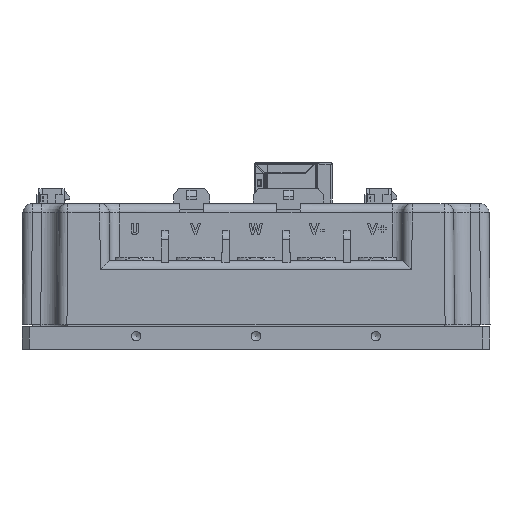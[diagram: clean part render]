
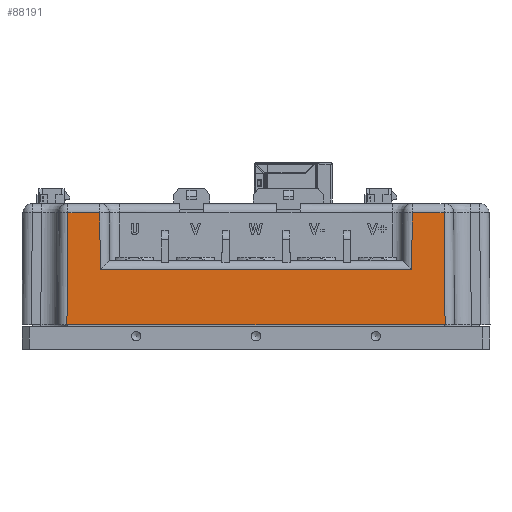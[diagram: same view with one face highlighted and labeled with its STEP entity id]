
A CAD part, left-side view. The second image highlights one B-rep face of the part: STEP entity #88191.
In plain terms, the highlighted planar face has unit normal (-1, 0, 0.009).
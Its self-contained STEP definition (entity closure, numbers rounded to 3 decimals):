
#8923=FACE_OUTER_BOUND('',#13813,.T.);
#13813=EDGE_LOOP('',(#76361,#76362,#76363,#76364,#76365,#76366,#76367,#76368));
#23563=LINE('',#148475,#33564);
#23595=LINE('',#148648,#33596);
#23709=LINE('',#149009,#33710);
#23710=LINE('',#149010,#33711);
#23711=LINE('',#149012,#33712);
#23712=LINE('',#149014,#33713);
#23713=LINE('',#149015,#33714);
#23714=LINE('',#149016,#33715);
#33564=VECTOR('',#114016,83.191);
#33596=VECTOR('',#114134,101.);
#33710=VECTOR('',#114414,8.511);
#33711=VECTOR('',#114415,29.924);
#33712=VECTOR('',#114416,29.924);
#33713=VECTOR('',#114417,8.511);
#33714=VECTOR('',#114418,15.201);
#33715=VECTOR('',#114419,15.201);
#42365=VERTEX_POINT('',#148472);
#42366=VERTEX_POINT('',#148474);
#42421=VERTEX_POINT('',#148646);
#42422=VERTEX_POINT('',#148647);
#42585=VERTEX_POINT('',#149007);
#42586=VERTEX_POINT('',#149008);
#42587=VERTEX_POINT('',#149011);
#42588=VERTEX_POINT('',#149013);
#53982=EDGE_CURVE('',#42366,#42365,#23563,.F.);
#54052=EDGE_CURVE('',#42421,#42422,#23595,.T.);
#54246=EDGE_CURVE('',#42585,#42586,#23709,.F.);
#54247=EDGE_CURVE('',#42586,#42421,#23710,.T.);
#54248=EDGE_CURVE('',#42422,#42587,#23711,.F.);
#54249=EDGE_CURVE('',#42587,#42588,#23712,.F.);
#54250=EDGE_CURVE('',#42588,#42366,#23713,.T.);
#54251=EDGE_CURVE('',#42365,#42585,#23714,.F.);
#76361=ORIENTED_EDGE('',*,*,#54246,.T.);
#76362=ORIENTED_EDGE('',*,*,#54247,.T.);
#76363=ORIENTED_EDGE('',*,*,#54052,.T.);
#76364=ORIENTED_EDGE('',*,*,#54248,.T.);
#76365=ORIENTED_EDGE('',*,*,#54249,.T.);
#76366=ORIENTED_EDGE('',*,*,#54250,.T.);
#76367=ORIENTED_EDGE('',*,*,#53982,.T.);
#76368=ORIENTED_EDGE('',*,*,#54251,.T.);
#84156=PLANE('',#94283);
#88191=ADVANCED_FACE('',(#8923),#84156,.T.);
#94283=AXIS2_PLACEMENT_3D('',#149006,#114412,#114413);
#114016=DIRECTION('',(0.,-1.,0.));
#114134=DIRECTION('',(0.,-1.,0.));
#114412=DIRECTION('center_axis',(-1.,0.,
0.009));
#114413=DIRECTION('ref_axis',(0.,-1.,0.));
#114414=DIRECTION('',(0.,-1.,0.));
#114415=DIRECTION('',(-0.009,0.009,-1.));
#114416=DIRECTION('',(-0.009,-0.009,-1.));
#114417=DIRECTION('',(0.,-1.,0.));
#114418=DIRECTION('',(-0.009,0.009,-1.));
#114419=DIRECTION('',(-0.009,-0.009,-1.));
#148472=CARTESIAN_POINT('',(-33.413,41.228,22.048));
#148474=CARTESIAN_POINT('',(-33.413,-41.963,22.048));
#148475=CARTESIAN_POINT('',(-33.413,41.228,22.048));
#148646=CARTESIAN_POINT('',(-33.542,50.132,7.326));
#148647=CARTESIAN_POINT('',(-33.542,-50.868,7.326));
#148648=CARTESIAN_POINT('',(-33.542,50.132,7.326));
#149006=CARTESIAN_POINT('Origin',(-33.542,-62.868,7.326));
#149007=CARTESIAN_POINT('',(-33.281,41.361,37.248));
#149008=CARTESIAN_POINT('',(-33.281,49.871,37.248));
#149009=CARTESIAN_POINT('',(-33.281,49.871,37.248));
#149010=CARTESIAN_POINT('',(-33.281,49.871,37.248));
#149011=CARTESIAN_POINT('',(-33.281,-50.607,37.248));
#149012=CARTESIAN_POINT('',(-33.281,-50.607,37.248));
#149013=CARTESIAN_POINT('',(-33.281,-42.096,37.248));
#149014=CARTESIAN_POINT('',(-33.281,-42.096,37.248));
#149015=CARTESIAN_POINT('',(-33.281,-42.096,37.248));
#149016=CARTESIAN_POINT('',(-33.281,41.361,37.248));
